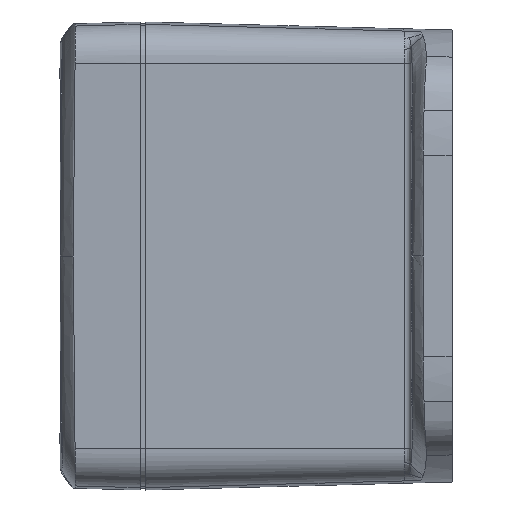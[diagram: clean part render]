
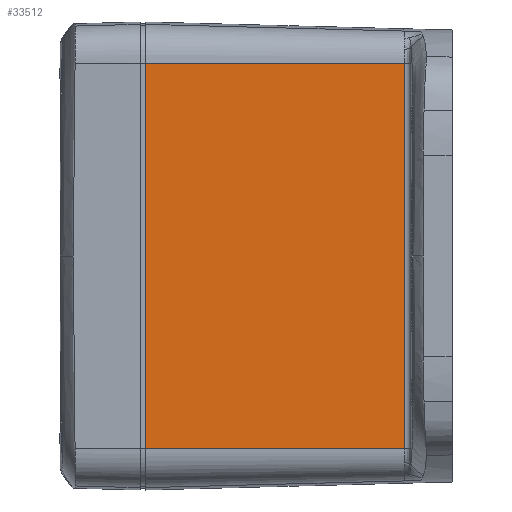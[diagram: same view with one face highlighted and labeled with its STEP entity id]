
A CAD part, left-side view. The second image highlights one B-rep face of the part: STEP entity #33512.
In plain terms, the highlighted planar face has unit normal (-1, -0.026, 0).
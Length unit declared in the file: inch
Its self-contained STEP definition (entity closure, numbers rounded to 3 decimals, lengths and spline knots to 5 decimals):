
#2531 = DIRECTION ( 'NONE',  ( 0., 0., 1. ) ) ;
#3803 = VECTOR ( 'NONE', #69252, 39.37008 ) ;
#4995 = DIRECTION ( 'NONE',  ( -1., -0.026, 0. ) ) ;
#5748 = EDGE_LOOP ( 'NONE', ( #14514, #62040, #64230, #130838 ) ) ;
#14514 = ORIENTED_EDGE ( 'NONE', *, *, #22222, .T. ) ;
#15007 = FACE_OUTER_BOUND ( 'NONE', #5748, .T. ) ;
#15256 = DIRECTION ( 'NONE',  ( 0., 0., 1. ) ) ;
#22222 = EDGE_CURVE ( 'NONE', #118515, #124838, #28068, .T. ) ;
#22706 = VECTOR ( 'NONE', #48738, 39.37008 ) ;
#28068 = LINE ( 'NONE', #57461, #22706 ) ;
#29173 = CARTESIAN_POINT ( 'NONE',  ( -2.125, 1.965, 1.23495 ) ) ;
#29533 = VERTEX_POINT ( 'NONE', #33224 ) ;
#33224 = CARTESIAN_POINT ( 'NONE',  ( -2.08148, 0.30323, 1.23495 ) ) ;
#33512 = ADVANCED_FACE ( 'Face2', ( #15007 ), #55730, .T. ) ;
#42687 = CARTESIAN_POINT ( 'NONE',  ( -2.08148, 0.30323, -1.23495 ) ) ;
#45467 = EDGE_CURVE ( 'NONE', #118515, #58376, #70672, .T. ) ;
#48738 = DIRECTION ( 'NONE',  ( 0.026, -1., 0. ) ) ;
#55730 = PLANE ( 'NONE',  #111808 ) ;
#57461 = CARTESIAN_POINT ( 'NONE',  ( -2.125, 1.965, -1.23495 ) ) ;
#58376 = VERTEX_POINT ( 'NONE', #81188 ) ;
#62040 = ORIENTED_EDGE ( 'NONE', *, *, #77926, .T. ) ;
#64230 = ORIENTED_EDGE ( 'NONE', *, *, #67356, .F. ) ;
#67356 = EDGE_CURVE ( 'NONE', #58376, #29533, #81927, .T. ) ;
#69252 = DIRECTION ( 'NONE',  ( 0.026, -1., 0. ) ) ;
#70672 = LINE ( 'NONE', #72657, #118923 ) ;
#72657 = CARTESIAN_POINT ( 'NONE',  ( -2.125, 1.965, -1.23495 ) ) ;
#77341 = LINE ( 'NONE', #88717, #107405 ) ;
#77926 = EDGE_CURVE ( 'NONE', #124838, #29533, #77341, .T. ) ;
#81188 = CARTESIAN_POINT ( 'NONE',  ( -2.125, 1.965, 1.23495 ) ) ;
#81927 = LINE ( 'NONE', #29173, #3803 ) ;
#86506 = DIRECTION ( 'NONE',  ( 0.026, -1., 0. ) ) ;
#88717 = CARTESIAN_POINT ( 'NONE',  ( -2.08149, 0.30323, -1.23495 ) ) ;
#96521 = CARTESIAN_POINT ( 'NONE',  ( -2.125, 1.965, -1.23495 ) ) ;
#107405 = VECTOR ( 'NONE', #15256, 39.37008 ) ;
#111808 = AXIS2_PLACEMENT_3D ( 'NONE', #96521, #4995, #86506 ) ;
#118515 = VERTEX_POINT ( 'NONE', #120823 ) ;
#118923 = VECTOR ( 'NONE', #2531, 39.37008 ) ;
#120823 = CARTESIAN_POINT ( 'NONE',  ( -2.125, 1.965, -1.23495 ) ) ;
#124838 = VERTEX_POINT ( 'NONE', #42687 ) ;
#130838 = ORIENTED_EDGE ( 'NONE', *, *, #45467, .F. ) ;
